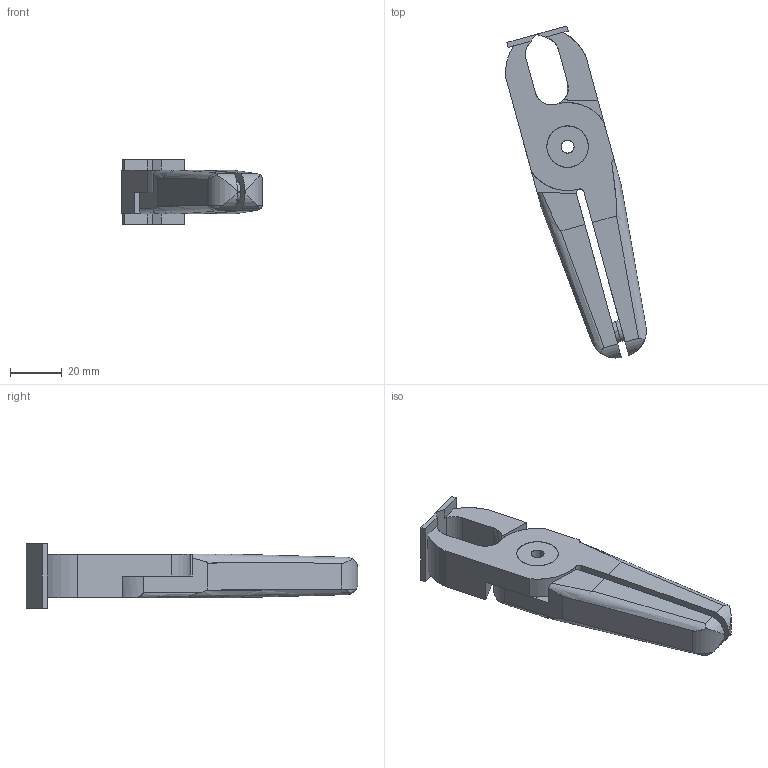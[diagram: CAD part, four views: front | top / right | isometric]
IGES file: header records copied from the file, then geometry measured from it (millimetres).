
Start section: SolidWorks IGES file using analytic representation for surfaces
Global section: file name: C:\Users\Will's Laptop\Desktop\N30AEH1595.IGS; native system: SolidWorks 2018; preprocessor: SolidWorks 2018; author: Will's Laptop; date: 200730.103608; units: inch
Bounding box: 54.33 x 128.19 x 25 mm (x, y, z)
Surface area: 17968.5 mm2 (no closed solid volume)
Topology: 0 solids, 0 shells, 90 faces, 1286 edges, 1286 vertices
Faces by surface type: bspline 46, revolution 44
